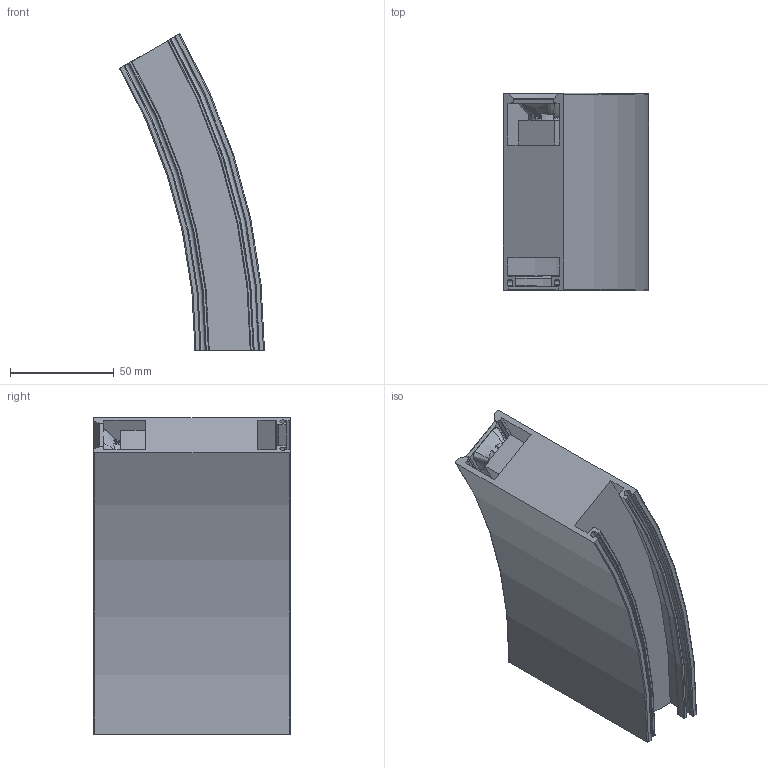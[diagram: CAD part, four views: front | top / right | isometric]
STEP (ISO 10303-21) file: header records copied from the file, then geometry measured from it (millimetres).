
FILE_DESCRIPTION(/* description */ (''),/* implementation_level */ '2;1');
FILE_NAME(/* name */ 'Evelo S R300 Optics Assembly.stp',/* time_stamp */ '2024-09-20T16:57:54+10:00',/* author */ ('Mlight Projects'),/* organization */ (''),/* preprocessor_version */ 'ST-DEVELOPER v20',/* originating_system */ 'Autodesk Inventor 2024',/* authorisation */ '');
FILE_SCHEMA (('AUTOMOTIVE_DESIGN { 1 0 10303 214 3 1 1 }'));
Length unit declared in the file: millimetre
Products named in the file (3): Evelo S R300 Blank Assembly; Body R200; AdmiA1FD67pd
Assembly tree (2 placements, depth 2):
  Evelo S R300 Blank Assembly
    Body R200
    AdmiA1FD67pd
Bounding box: 70.07 x 95.1 x 152.9 mm (x, y, z)
Volume: 346293.8 mm3; surface area: 91556.1 mm2
Topology: 3 solids, 3 shells, 1090 faces, 2982 edges, 1924 vertices
Faces by surface type: bspline 520, plane 278, cone 157, cylinder 98, torus 37
Full cylindrical faces by diameter (mm): 3.5 x3, 10.5 x3, 13.374 x6
Entity records: 52871 total; most frequent: CARTESIAN_POINT 28552, ORIENTED_EDGE 5964, DIRECTION 3961, EDGE_CURVE 2982, VERTEX_POINT 1924, AXIS2_PLACEMENT_3D 1681, B_SPLINE_CURVE_WITH_KNOTS 1261, EDGE_LOOP 1174
